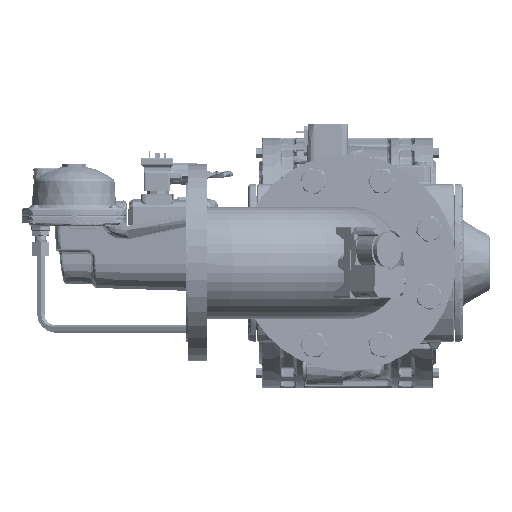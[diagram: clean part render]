
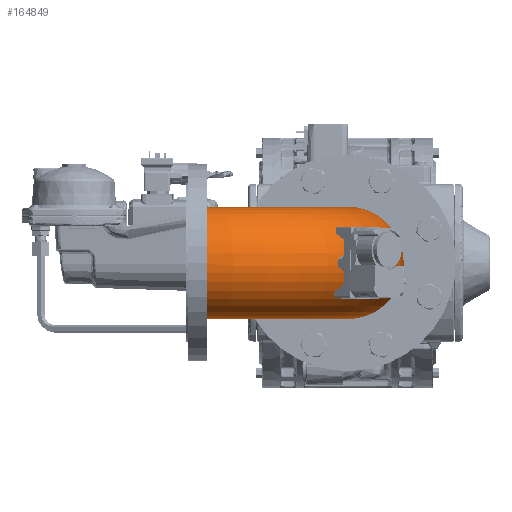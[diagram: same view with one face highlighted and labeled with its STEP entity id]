
A CAD part, left-side view. The second image highlights one B-rep face of the part: STEP entity #164849.
In plain terms, the highlighted toroidal (fillet/blend) face has major radius 152.5 mm and minor radius 57.15 mm.
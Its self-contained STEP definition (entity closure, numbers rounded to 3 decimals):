
#8624 = DIRECTION ( 'NONE',  ( 0., 0., 1. ) ) ;
#22775 = CARTESIAN_POINT ( 'NONE',  ( -385.577, -161.717, -15.21 ) ) ;
#25455 = CARTESIAN_POINT ( 'NONE',  ( -385.098, -162.229, -14.703 ) ) ;
#28049 = CARTESIAN_POINT ( 'NONE',  ( -386.935, -160.314, -6.999 ) ) ;
#30641 = CARTESIAN_POINT ( 'NONE',  ( -388.718, -158.576, -7.592 ) ) ;
#33306 = CARTESIAN_POINT ( 'NONE',  ( -388.897, -158.407, -7.746 ) ) ;
#38601 = CARTESIAN_POINT ( 'NONE',  ( -384.827, -162.523, -14.287 ) ) ;
#46490 = CARTESIAN_POINT ( 'NONE',  ( -384.122, -163.3, -10.804 ) ) ;
#56411 = CIRCLE ( 'NONE', #142554, 57.15 ) ;
#58553 = CARTESIAN_POINT ( 'NONE',  ( -239., -164.5, -11.4 ) ) ;
#65812 = CARTESIAN_POINT ( 'NONE',  ( -387.111, -160.139, -15.809 ) ) ;
#68445 = CARTESIAN_POINT ( 'NONE',  ( -384.84, -162.508, -8.477 ) ) ;
#71060 = CARTESIAN_POINT ( 'NONE',  ( -390.086, -157.314, -9.731 ) ) ;
#73684 = CARTESIAN_POINT ( 'NONE',  ( -384.256, -163.15, -9.96 ) ) ;
#79817 = DIRECTION ( 'NONE',  ( 1., 0., 0. ) ) ;
#82216 = VERTEX_POINT ( 'NONE', #165631 ) ;
#106213 = CARTESIAN_POINT ( 'NONE',  ( -388.347, -158.929, -7.336 ) ) ;
#108880 = CARTESIAN_POINT ( 'NONE',  ( -384.974, -162.362, -8.267 ) ) ;
#114178 = CARTESIAN_POINT ( 'NONE',  ( -385.96, -161.315, -7.317 ) ) ;
#116838 = CARTESIAN_POINT ( 'NONE',  ( -390.152, -157.255, -12.835 ) ) ;
#119860 = EDGE_LOOP ( 'NONE', ( #421242 ) ) ;
#131878 = EDGE_LOOP ( 'NONE', ( #355818 ) ) ;
#142554 = AXIS2_PLACEMENT_3D ( 'NONE', #163253, #284490, #79817 ) ;
#144900 = EDGE_CURVE ( 'NONE', #314700, #314700, #198775, .T. ) ;
#146597 = CARTESIAN_POINT ( 'NONE',  ( -388.873, -158.43, -15.076 ) ) ;
#149244 = CARTESIAN_POINT ( 'NONE',  ( -385.775, -161.508, -7.437 ) ) ;
#151912 = CARTESIAN_POINT ( 'NONE',  ( -390.264, -157.154, -12.282 ) ) ;
#154551 = CARTESIAN_POINT ( 'NONE',  ( -387.548, -159.704, -7.031 ) ) ;
#156491 = TOROIDAL_SURFACE ( 'NONE', #500642, 152.5, 57.15 ) ;
#157184 = CARTESIAN_POINT ( 'NONE',  ( -389.77, -157.601, -13.866 ) ) ;
#159769 = CARTESIAN_POINT ( 'NONE',  ( -384.1, -163.325, -11.663 ) ) ;
#161422 = EDGE_CURVE ( 'NONE', #82216, #82216, #222050, .T. ) ;
#163253 = CARTESIAN_POINT ( 'NONE',  ( -391.5, -12., -11.4 ) ) ;
#164849 = ADVANCED_FACE ( 'NONE', ( #458452, #213117, #210500 ), #156491, .T. ) ;
#165631 = CARTESIAN_POINT ( 'NONE',  ( -384.827, -162.523, -14.287 ) ) ;
#172787 = CARTESIAN_POINT ( 'NONE',  ( -239., -12., -11.4 ) ) ;
#186921 = CARTESIAN_POINT ( 'NONE',  ( -385.933, -161.343, -15.467 ) ) ;
#189640 = CARTESIAN_POINT ( 'NONE',  ( -388.152, -159.116, -7.232 ) ) ;
#192203 = CARTESIAN_POINT ( 'NONE',  ( -384.155, -163.263, -10.515 ) ) ;
#194847 = CARTESIAN_POINT ( 'NONE',  ( -387.142, -160.107, -6.991 ) ) ;
#198775 = CIRCLE ( 'NONE', #224541, 57.15 ) ;
#210500 = FACE_OUTER_BOUND ( 'NONE', #119860, .T. ) ;
#210731 = CARTESIAN_POINT ( 'NONE',  ( -384.585, -162.787, -13.832 ) ) ;
#213117 = FACE_OUTER_BOUND ( 'NONE', #261195, .T. ) ;
#222050 = B_SPLINE_CURVE_WITH_KNOTS ( 'NONE', 3,
 ( #237989, #232745, #25455, #434857, #22775, #186921, #316124, #402336, #270382, #65812, #399731, #480527, #361882, #526235, #280980, #146597, #310834, #230040, #351302, #157184, #359178, #475258, #116838, #151912, #275694, #440183, #356571, #483127, #394443, #71060, #485785, #227364, #515703, #273044, #523597, #33306, #30641, #106213, #189640, #437527, #154551, #194847, #28049, #353919, #518325, #114178, #149244, #318794, #477932, #108880, #68445, #397079, #278321, #442813, #73684, #192203, #46490, #405001, #159769, #294202, #372447, #410268, #283649, #210731, #367138, #38601 ),
 .UNSPECIFIED., .T., .F.,
 ( 4, 2, 2, 2, 2, 2, 2, 2, 2, 2, 2, 2, 2, 2, 2, 2, 2, 2, 2, 2, 2, 2, 2, 2, 2, 2, 2, 2, 2, 2, 2, 2, 4 ),
 ( 0., 0.001, 0.002, 0.003, 0.003, 0.004, 0.005, 0.006, 0.007, 0.008, 0.009, 0.009, 0.01, 0.011, 0.012, 0.013, 0.014, 0.015, 0.015, 0.016, 0.017, 0.018, 0.019, 0.02, 0.021, 0.021, 0.022, 0.023, 0.024, 0.025, 0.026, 0.027, 0.028 ),
 .UNSPECIFIED. ) ;
#224541 = AXIS2_PLACEMENT_3D ( 'NONE', #58553, #263144, #265836 ) ;
#227364 = CARTESIAN_POINT ( 'NONE',  ( -389.788, -157.584, -8.97 ) ) ;
#227620 = VERTEX_POINT ( 'NONE', #392038 ) ;
#230040 = CARTESIAN_POINT ( 'NONE',  ( -389.362, -157.975, -14.534 ) ) ;
#232745 = CARTESIAN_POINT ( 'NONE',  ( -384.956, -162.382, -14.506 ) ) ;
#233964 = CARTESIAN_POINT ( 'NONE',  ( -239., -107.35, -11.4 ) ) ;
#237989 = CARTESIAN_POINT ( 'NONE',  ( -384.827, -162.523, -14.287 ) ) ;
#261195 = EDGE_LOOP ( 'NONE', ( #517541 ) ) ;
#263144 = DIRECTION ( 'NONE',  ( -1., 0., 0. ) ) ;
#265836 = DIRECTION ( 'NONE',  ( 0., 1., 0. ) ) ;
#270382 = CARTESIAN_POINT ( 'NONE',  ( -386.707, -160.545, -15.77 ) ) ;
#273044 = CARTESIAN_POINT ( 'NONE',  ( -389.385, -157.954, -8.298 ) ) ;
#275694 = CARTESIAN_POINT ( 'NONE',  ( -390.3, -157.122, -11.999 ) ) ;
#278321 = CARTESIAN_POINT ( 'NONE',  ( -384.498, -162.883, -9.176 ) ) ;
#280980 = CARTESIAN_POINT ( 'NONE',  ( -388.508, -158.775, -15.364 ) ) ;
#283649 = CARTESIAN_POINT ( 'NONE',  ( -384.392, -163., -13.328 ) ) ;
#284490 = DIRECTION ( 'NONE',  ( 0., 1., 0. ) ) ;
#294202 = CARTESIAN_POINT ( 'NONE',  ( -384.148, -163.271, -12.237 ) ) ;
#310834 = CARTESIAN_POINT ( 'NONE',  ( -389.044, -158.27, -14.91 ) ) ;
#314700 = VERTEX_POINT ( 'NONE', #233964 ) ;
#316124 = CARTESIAN_POINT ( 'NONE',  ( -386.118, -161.15, -15.569 ) ) ;
#318794 = CARTESIAN_POINT ( 'NONE',  ( -385.433, -161.87, -7.721 ) ) ;
#351302 = CARTESIAN_POINT ( 'NONE',  ( -389.51, -157.838, -14.321 ) ) ;
#353919 = CARTESIAN_POINT ( 'NONE',  ( -386.534, -160.721, -7.071 ) ) ;
#355818 = ORIENTED_EDGE ( 'NONE', *, *, #161422, .T. ) ;
#356571 = CARTESIAN_POINT ( 'NONE',  ( -390.324, -157.1, -11.131 ) ) ;
#359178 = CARTESIAN_POINT ( 'NONE',  ( -389.883, -157.498, -13.624 ) ) ;
#361882 = CARTESIAN_POINT ( 'NONE',  ( -387.925, -159.336, -15.664 ) ) ;
#367138 = CARTESIAN_POINT ( 'NONE',  ( -384.698, -162.663, -14.068 ) ) ;
#372447 = CARTESIAN_POINT ( 'NONE',  ( -384.191, -163.223, -12.52 ) ) ;
#392038 = CARTESIAN_POINT ( 'NONE',  ( -334.35, -12., -11.4 ) ) ;
#394443 = CARTESIAN_POINT ( 'NONE',  ( -390.222, -157.192, -10.278 ) ) ;
#397079 = CARTESIAN_POINT ( 'NONE',  ( -384.603, -162.767, -8.929 ) ) ;
#399731 = CARTESIAN_POINT ( 'NONE',  ( -387.314, -159.936, -15.802 ) ) ;
#402336 = CARTESIAN_POINT ( 'NONE',  ( -386.505, -160.751, -15.721 ) ) ;
#405001 = CARTESIAN_POINT ( 'NONE',  ( -384.095, -163.331, -11.377 ) ) ;
#410268 = CARTESIAN_POINT ( 'NONE',  ( -384.313, -163.087, -13.064 ) ) ;
#421242 = ORIENTED_EDGE ( 'NONE', *, *, #144900, .T. ) ;
#434857 = CARTESIAN_POINT ( 'NONE',  ( -385.407, -161.897, -15.054 ) ) ;
#437527 = CARTESIAN_POINT ( 'NONE',  ( -387.75, -159.506, -7.079 ) ) ;
#440183 = CARTESIAN_POINT ( 'NONE',  ( -390.331, -157.095, -11.419 ) ) ;
#442813 = CARTESIAN_POINT ( 'NONE',  ( -384.325, -163.074, -9.693 ) ) ;
#455513 = EDGE_CURVE ( 'NONE', #227620, #227620, #56411, .T. ) ;
#458452 = FACE_BOUND ( 'NONE', #131878, .T. ) ;
#475258 = CARTESIAN_POINT ( 'NONE',  ( -390.074, -157.325, -13.108 ) ) ;
#477932 = CARTESIAN_POINT ( 'NONE',  ( -385.273, -162.041, -7.887 ) ) ;
#480527 = CARTESIAN_POINT ( 'NONE',  ( -387.722, -159.533, -15.729 ) ) ;
#483127 = CARTESIAN_POINT ( 'NONE',  ( -390.271, -157.148, -10.563 ) ) ;
#485785 = CARTESIAN_POINT ( 'NONE',  ( -389.999, -157.393, -9.469 ) ) ;
#500642 = AXIS2_PLACEMENT_3D ( 'NONE', #172787, #8624, #501464 ) ;
#501464 = DIRECTION ( 'NONE',  ( -1., 0., 0. ) ) ;
#515703 = CARTESIAN_POINT ( 'NONE',  ( -389.662, -157.699, -8.731 ) ) ;
#517541 = ORIENTED_EDGE ( 'NONE', *, *, #455513, .F. ) ;
#518325 = CARTESIAN_POINT ( 'NONE',  ( -386.339, -160.921, -7.135 ) ) ;
#523597 = CARTESIAN_POINT ( 'NONE',  ( -389.232, -158.095, -8.101 ) ) ;
#526235 = CARTESIAN_POINT ( 'NONE',  ( -388.316, -158.958, -15.482 ) ) ;
